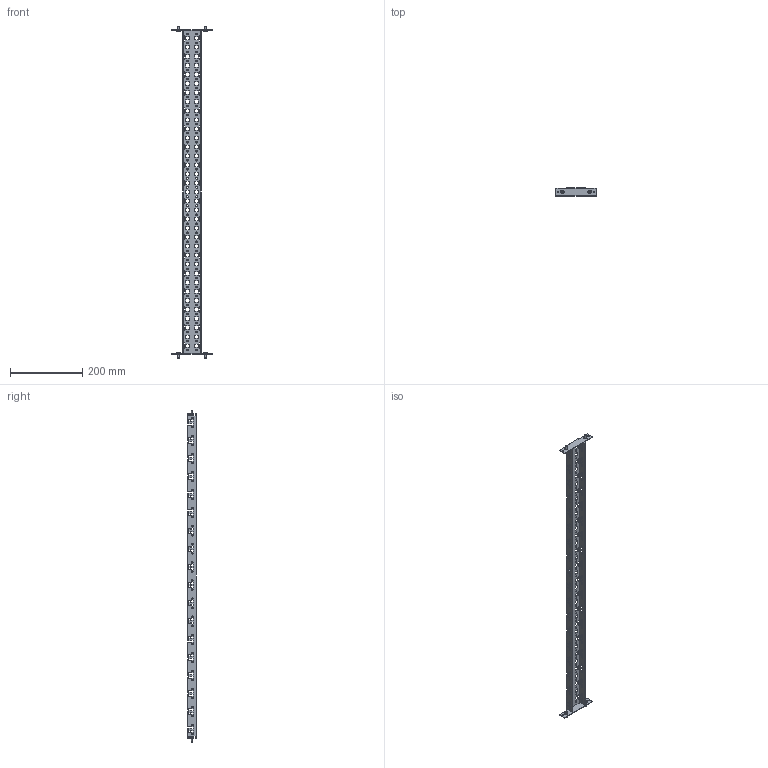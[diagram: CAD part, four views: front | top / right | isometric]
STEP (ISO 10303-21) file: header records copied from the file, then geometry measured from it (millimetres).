
FILE_DESCRIPTION(('Open CASCADE Model'),'2;1');
FILE_NAME('Open CASCADE Shape Model','2025-02-28T17:14:13',('Author'),( 'Open CASCADE'),'Open CASCADE STEP processor 7.8','Open CASCADE 7.8' ,'Unknown');
FILE_SCHEMA(('AUTOMOTIVE_DESIGN { 1 0 10303 214 1 1 1 1 }'));
Length unit declared in the file: millimetre
Products named in the file (3): Compound1; Solid1; Solid2
Assembly tree (5 placements, depth 2):
  Compound1
    Solid1
    Solid2  x4
Bounding box: 111 x 22.5 x 918 mm (x, y, z)
Volume: 109244.6 mm3; surface area: 160589.7 mm2
Topology: 5 solids, 5 shells, 1294 faces, 4004 edges, 2644 vertices
Faces by surface type: plane 926, cylinder 320, cone 16, torus 16, bspline 8, sphere 8
Entity records: 43658 total; most frequent: CARTESIAN_POINT 7855, ORIENTED_EDGE 7704, DIRECTION 6930, EDGE_CURVE 3852, LINE 3206, VECTOR 3206, VERTEX_POINT 2563, AXIS2_PLACEMENT_3D 1862
